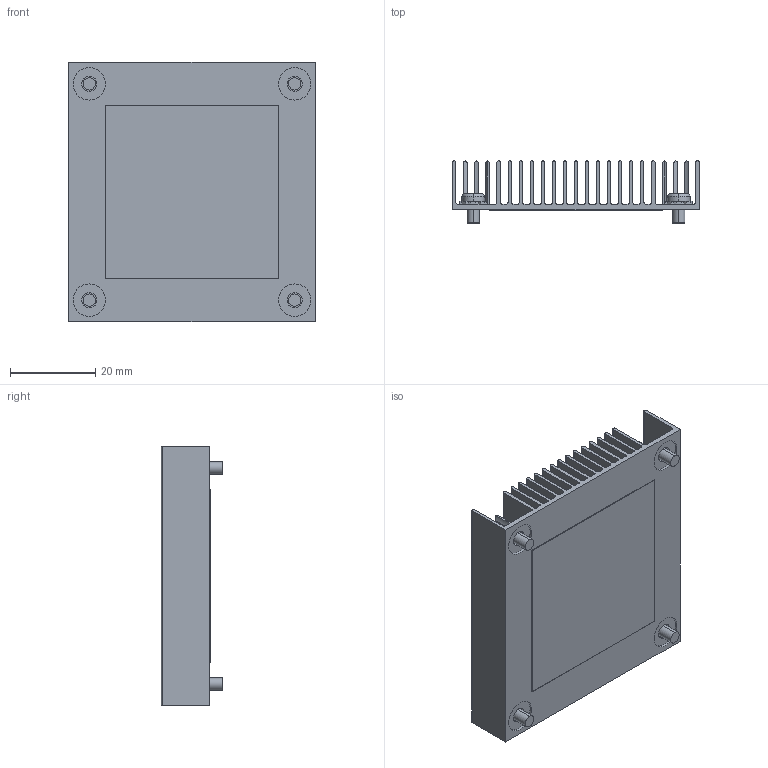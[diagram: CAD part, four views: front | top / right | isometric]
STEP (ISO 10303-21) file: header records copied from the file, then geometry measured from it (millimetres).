
FILE_DESCRIPTION (( 'STEP AP214' ), '1' );
FILE_NAME ('HS1576EBK05.STEP', '2023-03-03T18:36:59', ( '' ), ( '' ), 'SwSTEP 2.0', 'SolidWorks 2020', '' );
FILE_SCHEMA (( 'AUTOMOTIVE_DESIGN' ));
Length unit declared in the file: millimetre
Products named in the file (1): HS1576EBK05
Bounding box: 57.91 x 14.53 x 60.96 mm (x, y, z)
Volume: 15133.1 mm3; surface area: 37522.1 mm2
Topology: 6 solids, 6 shells, 536 faces, 1380 edges, 874 vertices
Faces by surface type: plane 383, cylinder 145, torus 8
Entity records: 22662 total; most frequent: CARTESIAN_POINT 3442, ORIENTED_EDGE 2760, DIRECTION 2748, EDGE_CURVE 1380, LINE 1018, VECTOR 1018, VERTEX_POINT 874, AXIS2_PLACEMENT_3D 865
